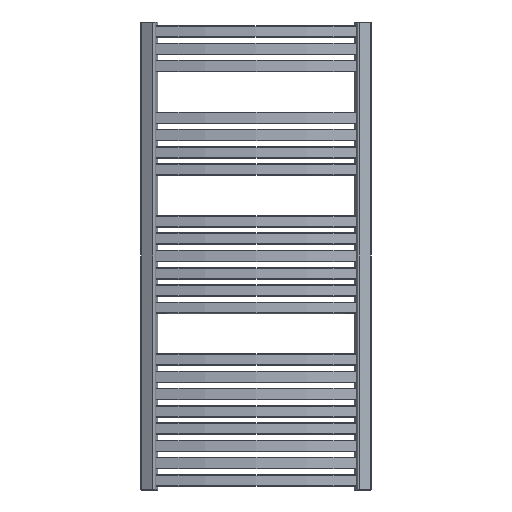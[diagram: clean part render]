
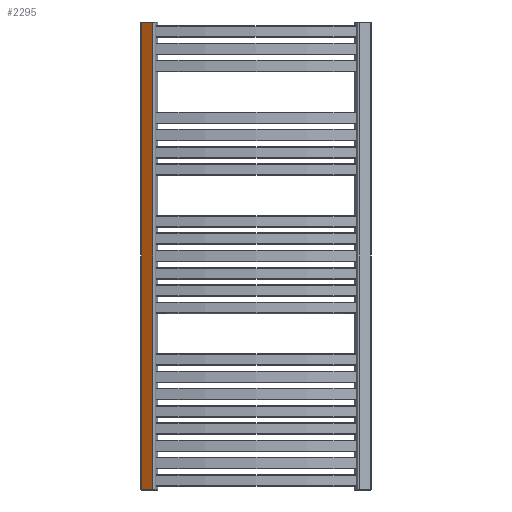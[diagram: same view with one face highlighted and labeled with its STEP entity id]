
A CAD part, front view. The second image highlights one B-rep face of the part: STEP entity #2295.
In plain terms, the highlighted planar face has unit normal (-0.515, -0.857, 0).
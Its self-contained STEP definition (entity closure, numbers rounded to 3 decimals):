
#249=CARTESIAN_POINT('',(-298.242,-5.701,1.5));
#250=VERTEX_POINT('',#249);
#298=CARTESIAN_POINT('',(-268.958,-23.297,1.5));
#299=VERTEX_POINT('',#298);
#307=CARTESIAN_POINT('',(-268.958,-23.297,1.5));
#308=DIRECTION('',(-0.857,0.515,0.0));
#309=VECTOR('',#308,34.164);
#310=LINE('',#307,#309);
#311=EDGE_CURVE('',#299,#250,#310,.T.);
#524=CARTESIAN_POINT('',(-298.242,-5.701,1218.5));
#525=VERTEX_POINT('',#524);
#526=CARTESIAN_POINT('',(-298.242,-5.701,1.5));
#527=DIRECTION('',(0.0,0.0,1.0));
#528=VECTOR('',#527,1217.0);
#529=LINE('',#526,#528);
#530=EDGE_CURVE('',#250,#525,#529,.T.);
#582=CARTESIAN_POINT('',(-268.958,-23.297,1218.5));
#583=VERTEX_POINT('',#582);
#600=CARTESIAN_POINT('',(-298.242,-5.701,1218.5));
#601=DIRECTION('',(0.857,-0.515,0.0));
#602=VECTOR('',#601,34.164);
#603=LINE('',#600,#602);
#604=EDGE_CURVE('',#525,#583,#603,.T.);
#2275=CARTESIAN_POINT('',(-268.958,-23.297,1218.5));
#2276=DIRECTION('',(0.0,0.0,-1.0));
#2277=VECTOR('',#2276,1217.0);
#2278=LINE('',#2275,#2277);
#2279=EDGE_CURVE('',#583,#299,#2278,.T.);
#2284=CARTESIAN_POINT('',(-265.048,-25.646,0.0));
#2285=DIRECTION('',(-0.515,-0.857,0.0));
#2286=DIRECTION('',(0.0,0.0,1.0));
#2287=AXIS2_PLACEMENT_3D('',#2284,#2285,#2286);
#2288=PLANE('',#2287);
#2289=ORIENTED_EDGE('',*,*,#311,.F.);
#2290=ORIENTED_EDGE('',*,*,#2279,.F.);
#2291=ORIENTED_EDGE('',*,*,#604,.F.);
#2292=ORIENTED_EDGE('',*,*,#530,.F.);
#2293=EDGE_LOOP('',(#2289,#2290,#2291,#2292));
#2294=FACE_OUTER_BOUND('',#2293,.T.);
#2295=ADVANCED_FACE('',(#2294),#2288,.T.);
